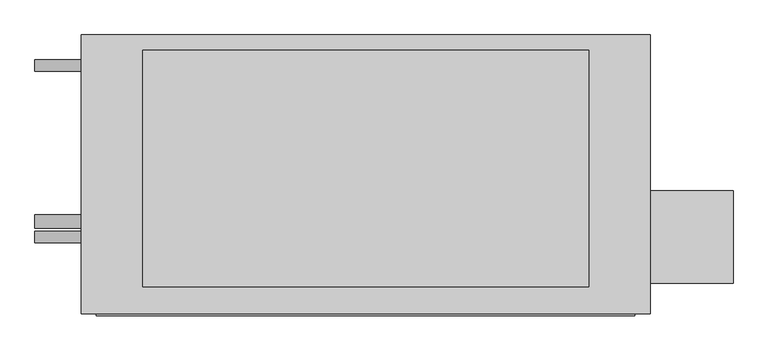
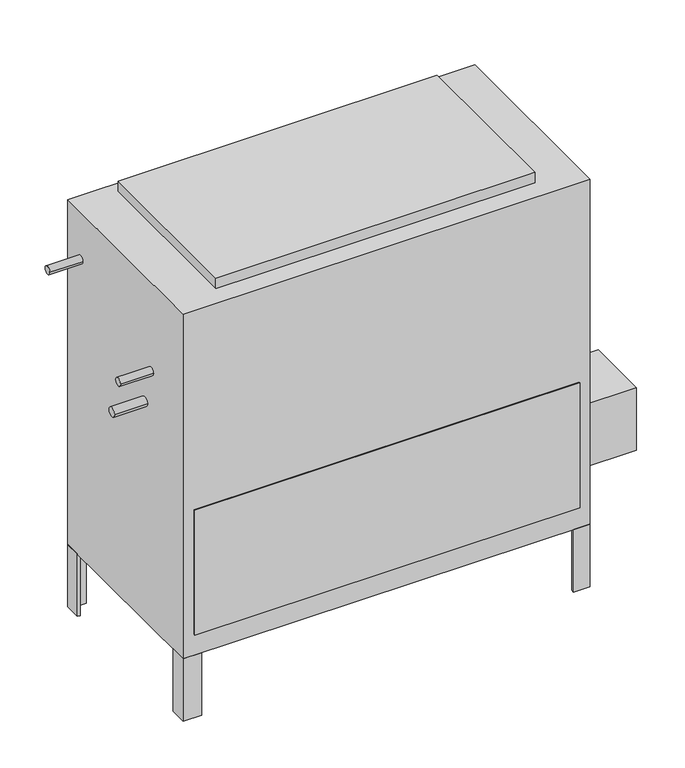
"""IFC4 building model written with IfcOpenShell, lengths in millimetres: proxy geometry, Concealed_High_Capacity_Vertical_Fan_Coil_Unit_-_42DDA_-_CARRIER_-_2-Pipe_Cool-EHeat_LH_2022 : Size 12 - 277v/60Hz/1Ph - 6 Row 9.0kW."""

from ifc_helpers import new_model, si_unit, point, frame, frame_2d, origin, origin_with_axes, place, context, project, spatial, polyline, circle_curve, trimmed, segment, composite_curve, outline, extrude, source, transform, mapped, element, save


def mechanical_equipment_35031151(model_context):
    return source(origin(), model_context, "Body", "SweptSolid", [
        extrude(outline(polyline([(622.3, -417.5125), (622.3, -265.1125), (758.825, -265.1125), (758.825, -417.5125), (622.3, -417.5125)])), frame((0.0, 0.0, 101.6), z_axis=(0.0, 0.0, 1.0), x_axis=(1.0, 0.0, 0.0)), (0.0, 0.0, 1.0), 152.4),
        extrude(outline(polyline([(622.3, -46.0375), (615.95, -46.0375), (615.95, -14.2875), (584.2, -14.2875), (584.2, -7.9375), (622.3, -7.9375), (622.3, -46.0375)])), frame((0.0, 0.0, -152.4), z_axis=(0.0, 0.0, 1.0), x_axis=(1.0, 0.0, 0.0)), (0.0, 0.0, 1.0), 152.4),
        extrude(outline(polyline([(-279.4, -7.9375), (-279.4, -14.2875), (-311.15, -14.2875), (-311.15, -46.0375), (-317.5, -46.0375), (-317.5, -7.9375), (-279.4, -7.9375)])), frame((0.0, 0.0, -152.4), z_axis=(0.0, 0.0, 1.0), x_axis=(1.0, 0.0, 0.0)), (0.0, 0.0, 1.0), 152.4),
        extrude(outline(polyline([(584.2, -468.3125), (584.2, -461.9625), (615.95, -461.9625), (615.95, -430.2125), (622.3, -430.2125), (622.3, -468.3125), (584.2, -468.3125)])), frame((0.0, 0.0, -152.4), z_axis=(0.0, 0.0, 1.0), x_axis=(1.0, 0.0, 0.0)), (0.0, 0.0, 1.0), 152.4),
        extrude(outline(polyline([(-317.5, -428.1199163), (-311.15, -428.1199163), (-311.15, -461.9625), (-274.0318533, -461.9625), (-274.0318533, -468.3125), (-317.5, -468.3125), (-317.5, -428.1199163)])), frame((0.0, 0.0, -152.4), z_axis=(0.0, 0.0, 1.0), x_axis=(1.0, 0.0, 0.0)), (0.0, 0.0, 1.0), 152.4),
        extrude(outline(polyline([(520.7, -33.3375), (520.7, -423.8625), (-215.9, -423.8625), (-215.9, -33.3375), (520.7, -33.3375)])), frame((0.0, 0.0, 841.375), z_axis=(0.0, 0.0, 1.0), x_axis=(1.0, 0.0, 0.0)), (0.0, 0.0, 1.0), 25.4),
        extrude(outline(polyline([(596.9, -471.4875), (-292.1, -471.4875), (-292.1, -468.3125), (596.9, -468.3125), (596.9, -471.4875)])), frame((0.0, 0.0, 50.8), z_axis=(0.0, 0.0, 1.0), x_axis=(1.0, 0.0, 0.0)), (0.0, 0.0, 1.0), 304.8),
        extrude(outline(composite_curve([segment(trimmed(circle_curve(frame_2d((-58.7375, 727.075)), 9.525), [point((-68.2625, 727.075))], [point((-49.2125, 727.075))], False, "CARTESIAN"), True, "CONTINUOUS"), segment(trimmed(circle_curve(frame_2d((-58.7375, 727.075)), 9.525), [point((-49.2125, 727.075))], [point((-68.2625, 727.075))], False, "CARTESIAN"), True, "CONTINUOUS")], self_intersect=False)), frame((-393.7, 0.0, 0.0), z_axis=(1.0, 0.0, 0.0), x_axis=(0.0, 1.0, 0.0)), (0.0, 0.0, 1.0), 76.2),
        extrude(outline(composite_curve([segment(trimmed(circle_curve(frame_2d((-341.3125, 625.475)), 9.525), [point((-350.8375, 625.475))], [point((-331.7875, 625.475))], False, "CARTESIAN"), True, "CONTINUOUS"), segment(trimmed(circle_curve(frame_2d((-341.3125, 625.475)), 9.525), [point((-331.7875, 625.475))], [point((-350.8375, 625.475))], False, "CARTESIAN"), True, "CONTINUOUS")], self_intersect=False)), frame((-393.7, 0.0, 0.0), z_axis=(1.0, 0.0, 0.0), x_axis=(0.0, 1.0, 0.0)), (0.0, 0.0, 1.0), 76.2),
        extrude(outline(composite_curve([segment(trimmed(circle_curve(frame_2d((-315.9125, 536.575)), 11.1125), [point((-327.025, 536.575))], [point((-304.8, 536.575))], False, "CARTESIAN"), True, "CONTINUOUS"), segment(trimmed(circle_curve(frame_2d((-315.9125, 536.575)), 11.1125), [point((-304.8, 536.575))], [point((-327.025, 536.575))], False, "CARTESIAN"), True, "CONTINUOUS")], self_intersect=False)), frame((-393.7, 0.0, 0.0), z_axis=(1.0, 0.0, 0.0), x_axis=(0.0, 1.0, 0.0)), (0.0, 0.0, 1.0), 76.2),
        extrude(outline(polyline([(622.3, -7.9375), (622.3, -468.3125), (-317.5, -468.3125), (-317.5, -7.9375), (622.3, -7.9375)])), origin_with_axes(), (0.0, 0.0, 1.0), 841.375),
    ])


if __name__ == "__main__":
    model = new_model("IFC4")
    model_context = context("Model", 3, world=origin())
    ifc_project = project(units=[si_unit("LENGTHUNIT", "METRE", prefix="MILLI")], contexts=[model_context])
    site = spatial("IfcSite", under=ifc_project)
    building = spatial("IfcBuilding", under=site)
    placement = place(None, origin())
    mechanical_equipment_shape = mechanical_equipment_35031151(model_context)
    element("IfcBuildingElementProxy", 1, Name="Concealed_High_Capacity_Vertical_Fan_Coil_Unit_-_42DDA_-_CARRIER_-_2-Pipe_Cool-EHeat_LH_2022 : Size 12 - 277v/60Hz/1Ph - 6 Row 9.0kW", ObjectType="Concealed_High_Capacity_Vertical_Fan_Coil_Unit_-_42DDA_-_CARRIER_-_2-Pipe_Cool-EHeat_LH_2022 : Size 12 - 277v/60Hz/1Ph - 6 Row 9.0kW", at=placement, inside=building, context=model_context, shape_type="MappedRepresentation", body=[
        mapped(mechanical_equipment_shape, transform((0.0, 0.0, 0.0), x_axis=(1.0, 0.0, 0.0), y_axis=(0.0, 1.0, 0.0), z_axis=(0.0, 0.0, 1.0))),
    ])
    save(model, "model.ifc")
